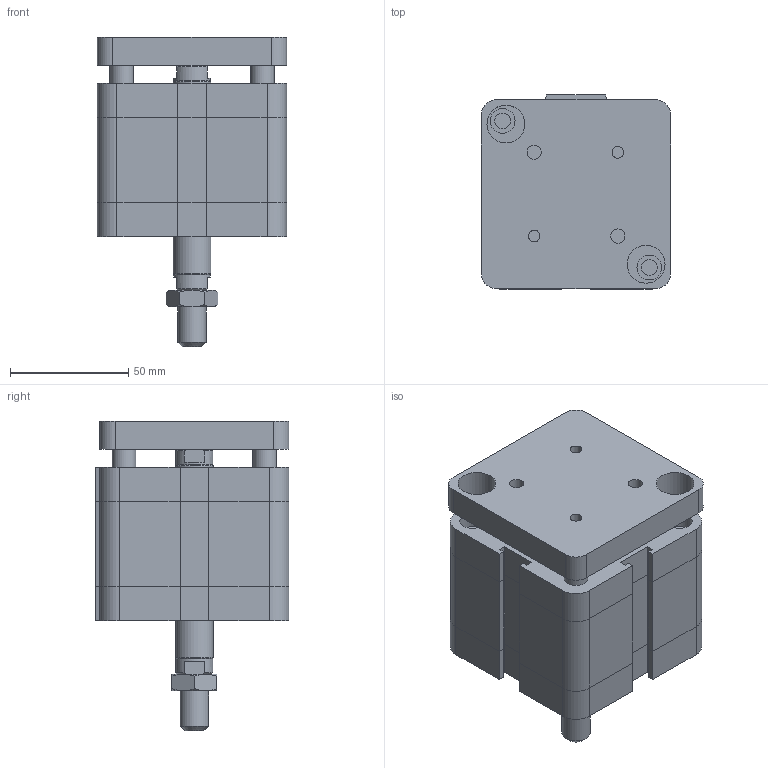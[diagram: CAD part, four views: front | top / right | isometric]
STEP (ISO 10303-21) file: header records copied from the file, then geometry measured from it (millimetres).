
FILE_DESCRIPTION((''),'2;1');
FILE_NAME('I:\Area Tecnica\Disegni\VARIE-3D\Componenti\EUROPE\15##_###_####_09_#\1581_63_0015_09_1.iam.stp','2009-04-20T15:47:10',(''),(''),'Autodesk Inventor 2009','Autodesk Inventor 2009','');
FILE_SCHEMA(('AUTOMOTIVE_DESIGN { 1 0 10303 214 1 1 1 1 }'));
Length unit declared in the file: millimetre
Products named in the file (4): 1581_63_0015_09_1; 1581_63_0015_08_1_C; 1561_63_0015_09_1_SA; DBFM12
Assembly tree (3 placements, depth 2):
  1581_63_0015_09_1
    1581_63_0015_08_1_C
    1561_63_0015_09_1_SA
    DBFM12
Bounding box: 80 x 82 x 131 mm (x, y, z)
Volume: 477338.3 mm3; surface area: 70056.6 mm2
Topology: 3 solids, 3 shells, 209 faces, 470 edges, 287 vertices
Faces by surface type: plane 120, bspline 45, cylinder 23, cone 21
Full cylindrical faces by diameter (mm): 10 x2, 10.8 x1, 12 x1, 15.6 x2, 16 x1
Entity records: 5963 total; most frequent: CARTESIAN_POINT 1453, DIRECTION 838, ORIENTED_EDGE 834, EDGE_CURVE 417, AXIS2_PLACEMENT_3D 282, EDGE_LOOP 282, VECTOR 274, LINE 274
